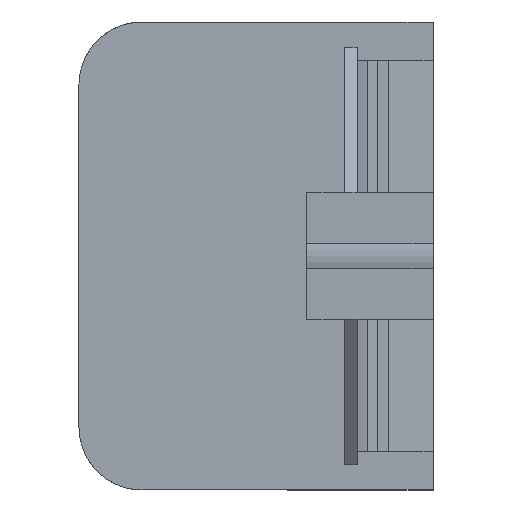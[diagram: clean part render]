
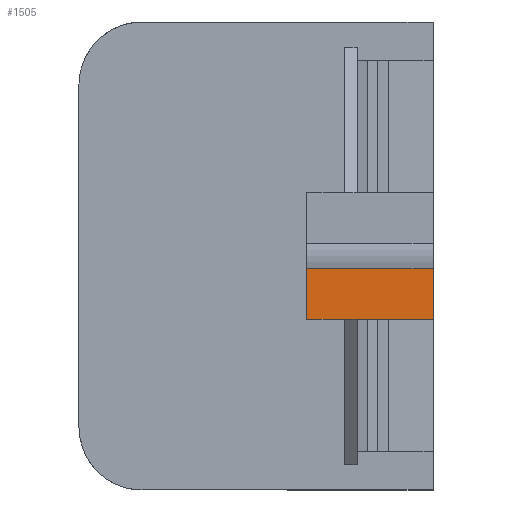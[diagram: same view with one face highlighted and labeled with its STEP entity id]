
A CAD part, left-side view. The second image highlights one B-rep face of the part: STEP entity #1505.
In plain terms, the highlighted planar face has unit normal (-1, 0, 0).
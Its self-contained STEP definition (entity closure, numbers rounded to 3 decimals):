
#540 = DIRECTION ( 'NONE',  ( 0., -1., 0. ) ) ;
#1104 = LINE ( 'NONE', #44548, #21701 ) ;
#1313 = ORIENTED_EDGE ( 'NONE', *, *, #38562, .F. ) ;
#1505 = ADVANCED_FACE ( 'NONE', ( #13284 ), #3868, .T. ) ;
#3073 = VECTOR ( 'NONE', #40936, 1000. ) ;
#3557 = CARTESIAN_POINT ( 'NONE',  ( -59., 0., 0. ) ) ;
#3868 = PLANE ( 'NONE',  #37785 ) ;
#5945 = CARTESIAN_POINT ( 'NONE',  ( -59., 0., -5. ) ) ;
#6711 = VERTEX_POINT ( 'NONE', #36866 ) ;
#6870 = EDGE_CURVE ( 'NONE', #7584, #10912, #44153, .T. ) ;
#6974 = VERTEX_POINT ( 'NONE', #36706 ) ;
#7576 = ORIENTED_EDGE ( 'NONE', *, *, #9948, .F. ) ;
#7584 = VERTEX_POINT ( 'NONE', #16340 ) ;
#9201 = VERTEX_POINT ( 'NONE', #5945 ) ;
#9842 = CARTESIAN_POINT ( 'NONE',  ( -59., -10., 0. ) ) ;
#9948 = EDGE_CURVE ( 'NONE', #6974, #6711, #1104, .T. ) ;
#10912 = VERTEX_POINT ( 'NONE', #44198 ) ;
#11156 = VECTOR ( 'NONE', #37659, 1000. ) ;
#12568 = LINE ( 'NONE', #9842, #29895 ) ;
#13284 = FACE_OUTER_BOUND ( 'NONE', #30675, .T. ) ;
#13769 = CARTESIAN_POINT ( 'NONE',  ( -59., -10., -5. ) ) ;
#16340 = CARTESIAN_POINT ( 'NONE',  ( -59., -10., -1. ) ) ;
#17270 = DIRECTION ( 'NONE',  ( 0., 1., 0. ) ) ;
#18490 = DIRECTION ( 'NONE',  ( 0., 0., -1. ) ) ;
#19396 = DIRECTION ( 'NONE',  ( 0., 1., 0. ) ) ;
#19868 = DIRECTION ( 'NONE',  ( 0., 0., -1. ) ) ;
#20162 = CARTESIAN_POINT ( 'NONE',  ( -59., 0., -1. ) ) ;
#20620 = LINE ( 'NONE', #40182, #22740 ) ;
#20849 = EDGE_CURVE ( 'NONE', #9201, #6711, #29563, .T. ) ;
#21701 = VECTOR ( 'NONE', #17270, 1000. ) ;
#22249 = CARTESIAN_POINT ( 'NONE',  ( -59., 0., 0. ) ) ;
#22740 = VECTOR ( 'NONE', #19396, 1000. ) ;
#23747 = ORIENTED_EDGE ( 'NONE', *, *, #20849, .T. ) ;
#24746 = ORIENTED_EDGE ( 'NONE', *, *, #6870, .T. ) ;
#27071 = EDGE_CURVE ( 'NONE', #7584, #31089, #12568, .T. ) ;
#28084 = DIRECTION ( 'NONE',  ( -1., 0., 0. ) ) ;
#29563 = LINE ( 'NONE', #30600, #11156 ) ;
#29895 = VECTOR ( 'NONE', #19868, 1000. ) ;
#30600 = CARTESIAN_POINT ( 'NONE',  ( -59., 0., -5. ) ) ;
#30675 = EDGE_LOOP ( 'NONE', ( #1313, #40741, #24746, #38123, #23747, #7576 ) ) ;
#31089 = VERTEX_POINT ( 'NONE', #13769 ) ;
#34846 = VECTOR ( 'NONE', #18490, 1000. ) ;
#36706 = CARTESIAN_POINT ( 'NONE',  ( -59., -4., -5. ) ) ;
#36866 = CARTESIAN_POINT ( 'NONE',  ( -59., -3., -5. ) ) ;
#37512 = LINE ( 'NONE', #22249, #34846 ) ;
#37659 = DIRECTION ( 'NONE',  ( 0., -1., 0. ) ) ;
#37785 = AXIS2_PLACEMENT_3D ( 'NONE', #3557, #28084, #540 ) ;
#38123 = ORIENTED_EDGE ( 'NONE', *, *, #44542, .T. ) ;
#38562 = EDGE_CURVE ( 'NONE', #31089, #6974, #20620, .T. ) ;
#40182 = CARTESIAN_POINT ( 'NONE',  ( -59., -10., -5. ) ) ;
#40741 = ORIENTED_EDGE ( 'NONE', *, *, #27071, .F. ) ;
#40936 = DIRECTION ( 'NONE',  ( 0., 1., 0. ) ) ;
#44153 = LINE ( 'NONE', #20162, #3073 ) ;
#44198 = CARTESIAN_POINT ( 'NONE',  ( -59., 0., -1. ) ) ;
#44542 = EDGE_CURVE ( 'NONE', #10912, #9201, #37512, .T. ) ;
#44548 = CARTESIAN_POINT ( 'NONE',  ( -59., 0., -5. ) ) ;
